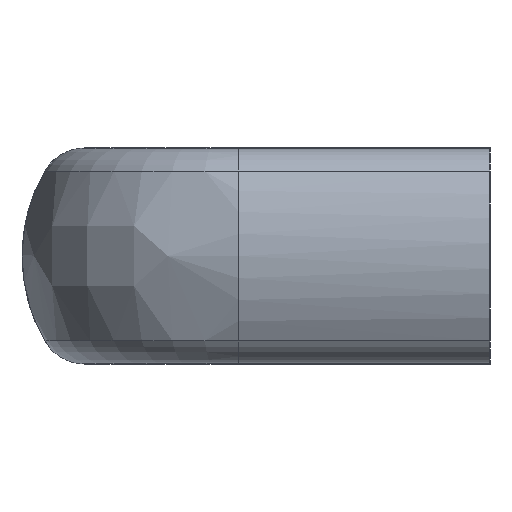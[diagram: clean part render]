
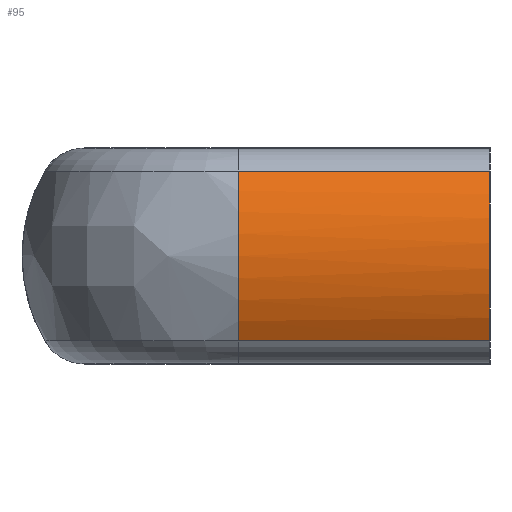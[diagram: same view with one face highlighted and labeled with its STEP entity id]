
A CAD part, left-side view. The second image highlights one B-rep face of the part: STEP entity #95.
In plain terms, the highlighted cylindrical face has radius 19.531 mm (diameter 39.062 mm), a partial arc.
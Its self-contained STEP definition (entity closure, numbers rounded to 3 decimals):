
#95 = ADVANCED_FACE( '', ( #177 ), #178, .T. );
#177 = FACE_OUTER_BOUND( '', #327, .T. );
#178 = CYLINDRICAL_SURFACE( '', #328, 19.531 );
#327 = EDGE_LOOP( '', ( #575, #576, #577, #578 ) );
#328 = AXIS2_PLACEMENT_3D( '', #579, #580, #581 );
#575 = ORIENTED_EDGE( '', *, *, #930, .T. );
#576 = ORIENTED_EDGE( '', *, *, #931, .F. );
#577 = ORIENTED_EDGE( '', *, *, #932, .F. );
#578 = ORIENTED_EDGE( '', *, *, #926, .T. );
#579 = CARTESIAN_POINT( '', ( -84.469, 0., 0. ) );
#580 = DIRECTION( '', ( 0., -1., 0. ) );
#581 = DIRECTION( '', ( 0., 0., 1. ) );
#926 = EDGE_CURVE( '', #1106, #1104, #1107, .T. );
#930 = EDGE_CURVE( '', #1104, #1111, #1112, .T. );
#931 = EDGE_CURVE( '', #1113, #1111, #1114, .T. );
#932 = EDGE_CURVE( '', #1106, #1113, #1115, .T. );
#1104 = VERTEX_POINT( '', #1386 );
#1106 = VERTEX_POINT( '', #1388 );
#1107 = LINE( '', #1389, #1390 );
#1111 = VERTEX_POINT( '', #1394 );
#1112 = CIRCLE( '', #1395, 19.531 );
#1113 = VERTEX_POINT( '', #1396 );
#1114 = LINE( '', #1397, #1398 );
#1115 = CIRCLE( '', #1399, 19.531 );
#1386 = CARTESIAN_POINT( '', ( -101.361, 29., 9.805 ) );
#1388 = CARTESIAN_POINT( '', ( -101.361, 0., 9.805 ) );
#1389 = CARTESIAN_POINT( '', ( -101.361, 0., 9.805 ) );
#1390 = VECTOR( '', #1621, 1000. );
#1394 = CARTESIAN_POINT( '', ( -101.361, 29., -9.805 ) );
#1395 = AXIS2_PLACEMENT_3D( '', #1631, #1632, #1633 );
#1396 = CARTESIAN_POINT( '', ( -101.361, 0., -9.805 ) );
#1397 = CARTESIAN_POINT( '', ( -101.361, 0., -9.805 ) );
#1398 = VECTOR( '', #1634, 1000. );
#1399 = AXIS2_PLACEMENT_3D( '', #1635, #1636, #1637 );
#1621 = DIRECTION( '', ( 0., 1., 0. ) );
#1631 = CARTESIAN_POINT( '', ( -84.469, 29., 0. ) );
#1632 = DIRECTION( '', ( 0., -1., 0. ) );
#1633 = DIRECTION( '', ( 0., 0., 1. ) );
#1634 = DIRECTION( '', ( 0., 1., 0. ) );
#1635 = CARTESIAN_POINT( '', ( -84.469, 0., 0. ) );
#1636 = DIRECTION( '', ( 0., -1., 0. ) );
#1637 = DIRECTION( '', ( 0., 0., 1. ) );
